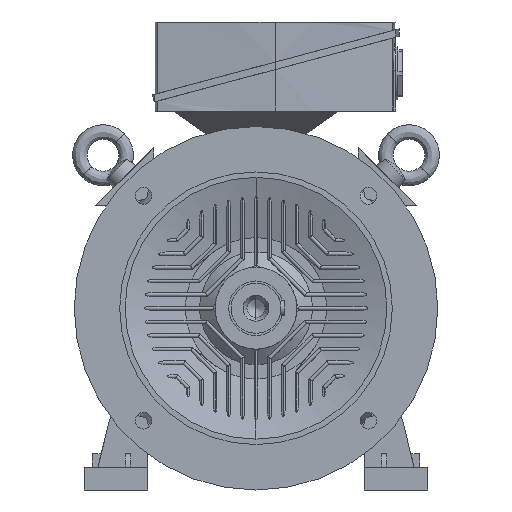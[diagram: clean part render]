
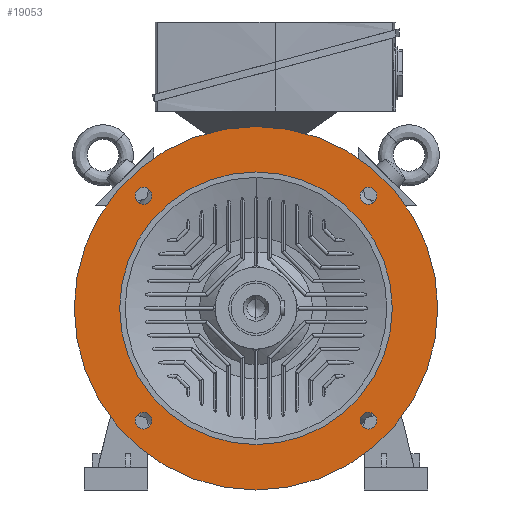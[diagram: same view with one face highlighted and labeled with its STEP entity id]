
A CAD part, left-side view. The second image highlights one B-rep face of the part: STEP entity #19053.
In plain terms, the highlighted planar face has unit normal (-1, 0, 0).
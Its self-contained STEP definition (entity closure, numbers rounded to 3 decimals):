
#27 = AXIS2_PLACEMENT_3D ( 'NONE', #8491, #37195, #12616 ) ;
#40 = EDGE_LOOP ( 'NONE', ( #25740, #29764 ) ) ;
#90 = FACE_BOUND ( 'NONE', #42458, .T. ) ;
#206 = AXIS2_PLACEMENT_3D ( 'NONE', #9977, #38678, #14138 ) ;
#286 = VERTEX_POINT ( 'NONE', #48686 ) ;
#443 = VERTEX_POINT ( 'NONE', #42939 ) ;
#1046 = CARTESIAN_POINT ( 'NONE',  ( -87., 123.744, -132.994 ) ) ;
#1607 = CARTESIAN_POINT ( 'NONE',  ( -87., 123.744, 132.994 ) ) ;
#1927 = ORIENTED_EDGE ( 'NONE', *, *, #2161, .F. ) ;
#2161 = EDGE_CURVE ( 'NONE', #286, #14268, #9461, .T. ) ;
#2487 = EDGE_CURVE ( 'NONE', #443, #22792, #8791, .T. ) ;
#2677 = FACE_BOUND ( 'NONE', #40, .T. ) ;
#2700 = CARTESIAN_POINT ( 'NONE',  ( -87., -123.744, -132.994 ) ) ;
#2808 = EDGE_CURVE ( 'NONE', #3770, #6292, #45957, .T. ) ;
#3066 = EDGE_CURVE ( 'NONE', #19151, #49707, #4219, .T. ) ;
#3140 = EDGE_CURVE ( 'NONE', #26219, #50385, #22269, .T. ) ;
#3770 = VERTEX_POINT ( 'NONE', #21270 ) ;
#3832 = DIRECTION ( 'NONE',  ( 0., 0., 1. ) ) ;
#4007 = DIRECTION ( 'NONE',  ( -1., 0., 0. ) ) ;
#4011 = CIRCLE ( 'NONE', #30469, 200. ) ;
#4112 = PLANE ( 'NONE',  #15749 ) ;
#4219 = CIRCLE ( 'NONE', #24663, 9.25 ) ;
#4345 = CARTESIAN_POINT ( 'NONE',  ( -87., 175., 0. ) ) ;
#4974 = EDGE_CURVE ( 'NONE', #43585, #16179, #27832, .T. ) ;
#5511 = CARTESIAN_POINT ( 'NONE',  ( -87., 0., -200. ) ) ;
#5781 = CARTESIAN_POINT ( 'NONE',  ( -87., 123.744, -123.744 ) ) ;
#6292 = VERTEX_POINT ( 'NONE', #1607 ) ;
#6550 = CARTESIAN_POINT ( 'NONE',  ( -87., 0., 0. ) ) ;
#8491 = CARTESIAN_POINT ( 'NONE',  ( -87., 0., 0. ) ) ;
#8791 = CIRCLE ( 'NONE', #32162, 9.25 ) ;
#9461 = CIRCLE ( 'NONE', #24956, 200. ) ;
#9940 = DIRECTION ( 'NONE',  ( 0., 0., -1. ) ) ;
#9977 = CARTESIAN_POINT ( 'NONE',  ( -87., -123.744, 123.744 ) ) ;
#10723 = ORIENTED_EDGE ( 'NONE', *, *, #4974, .T. ) ;
#10734 = DIRECTION ( 'NONE',  ( 0., 0., 1. ) ) ;
#11499 = DIRECTION ( 'NONE',  ( 0., 0., 1. ) ) ;
#11556 = DIRECTION ( 'NONE',  ( 1., 0., 0. ) ) ;
#11682 = CARTESIAN_POINT ( 'NONE',  ( -87., 0., 0. ) ) ;
#11981 = AXIS2_PLACEMENT_3D ( 'NONE', #37728, #37666, #37630 ) ;
#12616 = DIRECTION ( 'NONE',  ( 0., 0., 1. ) ) ;
#14138 = DIRECTION ( 'NONE',  ( 0., 0., -1. ) ) ;
#14268 = VERTEX_POINT ( 'NONE', #5511 ) ;
#15378 = ORIENTED_EDGE ( 'NONE', *, *, #21541, .T. ) ;
#15416 = ORIENTED_EDGE ( 'NONE', *, *, #3066, .T. ) ;
#15464 = EDGE_LOOP ( 'NONE', ( #15416, #15378 ) ) ;
#15749 = AXIS2_PLACEMENT_3D ( 'NONE', #4345, #4007, #3832 ) ;
#15815 = AXIS2_PLACEMENT_3D ( 'NONE', #5781, #34516, #9940 ) ;
#16179 = VERTEX_POINT ( 'NONE', #35062 ) ;
#16662 = EDGE_CURVE ( 'NONE', #6292, #3770, #27959, .T. ) ;
#17547 = ORIENTED_EDGE ( 'NONE', *, *, #44719, .T. ) ;
#18532 = DIRECTION ( 'NONE',  ( 1., 0., 0. ) ) ;
#19053 = ADVANCED_FACE ( 'NONE', ( #42515, #22057, #2677, #90, #31629, #20790 ), #4112, .T. ) ;
#19151 = VERTEX_POINT ( 'NONE', #1046 ) ;
#19410 = CARTESIAN_POINT ( 'NONE',  ( -87., -123.744, -114.494 ) ) ;
#20790 = FACE_BOUND ( 'NONE', #32198, .T. ) ;
#20845 = ORIENTED_EDGE ( 'NONE', *, *, #16662, .T. ) ;
#21127 = EDGE_CURVE ( 'NONE', #22792, #443, #39787, .T. ) ;
#21270 = CARTESIAN_POINT ( 'NONE',  ( -87., 123.744, 114.494 ) ) ;
#21541 = EDGE_CURVE ( 'NONE', #49707, #19151, #39139, .T. ) ;
#21823 = CARTESIAN_POINT ( 'NONE',  ( -87., 123.744, -114.494 ) ) ;
#21901 = DIRECTION ( 'NONE',  ( 0., 0., -1. ) ) ;
#21910 = DIRECTION ( 'NONE',  ( 1., 0., 0. ) ) ;
#21980 = CARTESIAN_POINT ( 'NONE',  ( -87., 123.744, 123.744 ) ) ;
#22057 = FACE_OUTER_BOUND ( 'NONE', #39293, .T. ) ;
#22269 = CIRCLE ( 'NONE', #35633, 9.25 ) ;
#22792 = VERTEX_POINT ( 'NONE', #52907 ) ;
#24663 = AXIS2_PLACEMENT_3D ( 'NONE', #38035, #37974, #37911 ) ;
#24684 = ORIENTED_EDGE ( 'NONE', *, *, #3140, .T. ) ;
#24956 = AXIS2_PLACEMENT_3D ( 'NONE', #11682, #11556, #11499 ) ;
#25657 = AXIS2_PLACEMENT_3D ( 'NONE', #42988, #42920, #42880 ) ;
#25740 = ORIENTED_EDGE ( 'NONE', *, *, #2487, .T. ) ;
#26219 = VERTEX_POINT ( 'NONE', #2700 ) ;
#26734 = ORIENTED_EDGE ( 'NONE', *, *, #43553, .T. ) ;
#27487 = ORIENTED_EDGE ( 'NONE', *, *, #2808, .T. ) ;
#27832 = CIRCLE ( 'NONE', #11981, 150. ) ;
#27959 = CIRCLE ( 'NONE', #46119, 9.25 ) ;
#29101 = CARTESIAN_POINT ( 'NONE',  ( -87., 0., -150. ) ) ;
#29764 = ORIENTED_EDGE ( 'NONE', *, *, #21127, .T. ) ;
#30469 = AXIS2_PLACEMENT_3D ( 'NONE', #6550, #35283, #10734 ) ;
#31629 = FACE_BOUND ( 'NONE', #15464, .T. ) ;
#32162 = AXIS2_PLACEMENT_3D ( 'NONE', #51252, #51194, #51133 ) ;
#32198 = EDGE_LOOP ( 'NONE', ( #24684, #17547 ) ) ;
#32810 = AXIS2_PLACEMENT_3D ( 'NONE', #42998, #18532, #47108 ) ;
#34516 = DIRECTION ( 'NONE',  ( 1., 0., 0. ) ) ;
#34849 = EDGE_LOOP ( 'NONE', ( #26734, #10723 ) ) ;
#35062 = CARTESIAN_POINT ( 'NONE',  ( -87., 0., 150. ) ) ;
#35283 = DIRECTION ( 'NONE',  ( 1., 0., 0. ) ) ;
#35437 = DIRECTION ( 'NONE',  ( 0., 0., -1. ) ) ;
#35500 = DIRECTION ( 'NONE',  ( 1., 0., 0. ) ) ;
#35566 = CARTESIAN_POINT ( 'NONE',  ( -87., -123.744, -123.744 ) ) ;
#35633 = AXIS2_PLACEMENT_3D ( 'NONE', #35566, #35500, #35437 ) ;
#36168 = EDGE_CURVE ( 'NONE', #14268, #286, #4011, .T. ) ;
#37195 = DIRECTION ( 'NONE',  ( 1., 0., 0. ) ) ;
#37630 = DIRECTION ( 'NONE',  ( 0., 0., 1. ) ) ;
#37666 = DIRECTION ( 'NONE',  ( 1., 0., 0. ) ) ;
#37728 = CARTESIAN_POINT ( 'NONE',  ( -87., 0., 0. ) ) ;
#37910 = CIRCLE ( 'NONE', #32810, 9.25 ) ;
#37911 = DIRECTION ( 'NONE',  ( 0., 0., -1. ) ) ;
#37974 = DIRECTION ( 'NONE',  ( 1., 0., 0. ) ) ;
#38035 = CARTESIAN_POINT ( 'NONE',  ( -87., 123.744, -123.744 ) ) ;
#38678 = DIRECTION ( 'NONE',  ( 1., 0., 0. ) ) ;
#39139 = CIRCLE ( 'NONE', #15815, 9.25 ) ;
#39293 = EDGE_LOOP ( 'NONE', ( #1927, #46666 ) ) ;
#39787 = CIRCLE ( 'NONE', #206, 9.25 ) ;
#42458 = EDGE_LOOP ( 'NONE', ( #27487, #20845 ) ) ;
#42515 = FACE_BOUND ( 'NONE', #34849, .T. ) ;
#42880 = DIRECTION ( 'NONE',  ( 0., 0., -1. ) ) ;
#42920 = DIRECTION ( 'NONE',  ( 1., 0., 0. ) ) ;
#42939 = CARTESIAN_POINT ( 'NONE',  ( -87., -123.744, 114.494 ) ) ;
#42988 = CARTESIAN_POINT ( 'NONE',  ( -87., 123.744, 123.744 ) ) ;
#42998 = CARTESIAN_POINT ( 'NONE',  ( -87., -123.744, -123.744 ) ) ;
#43553 = EDGE_CURVE ( 'NONE', #16179, #43585, #43728, .T. ) ;
#43585 = VERTEX_POINT ( 'NONE', #29101 ) ;
#43728 = CIRCLE ( 'NONE', #27, 150. ) ;
#44719 = EDGE_CURVE ( 'NONE', #50385, #26219, #37910, .T. ) ;
#45957 = CIRCLE ( 'NONE', #25657, 9.25 ) ;
#46119 = AXIS2_PLACEMENT_3D ( 'NONE', #21980, #21910, #21901 ) ;
#46666 = ORIENTED_EDGE ( 'NONE', *, *, #36168, .F. ) ;
#47108 = DIRECTION ( 'NONE',  ( 0., 0., -1. ) ) ;
#48686 = CARTESIAN_POINT ( 'NONE',  ( -87., 0., 200. ) ) ;
#49707 = VERTEX_POINT ( 'NONE', #21823 ) ;
#50385 = VERTEX_POINT ( 'NONE', #19410 ) ;
#51133 = DIRECTION ( 'NONE',  ( 0., 0., -1. ) ) ;
#51194 = DIRECTION ( 'NONE',  ( 1., 0., 0. ) ) ;
#51252 = CARTESIAN_POINT ( 'NONE',  ( -87., -123.744, 123.744 ) ) ;
#52907 = CARTESIAN_POINT ( 'NONE',  ( -87., -123.744, 132.994 ) ) ;
